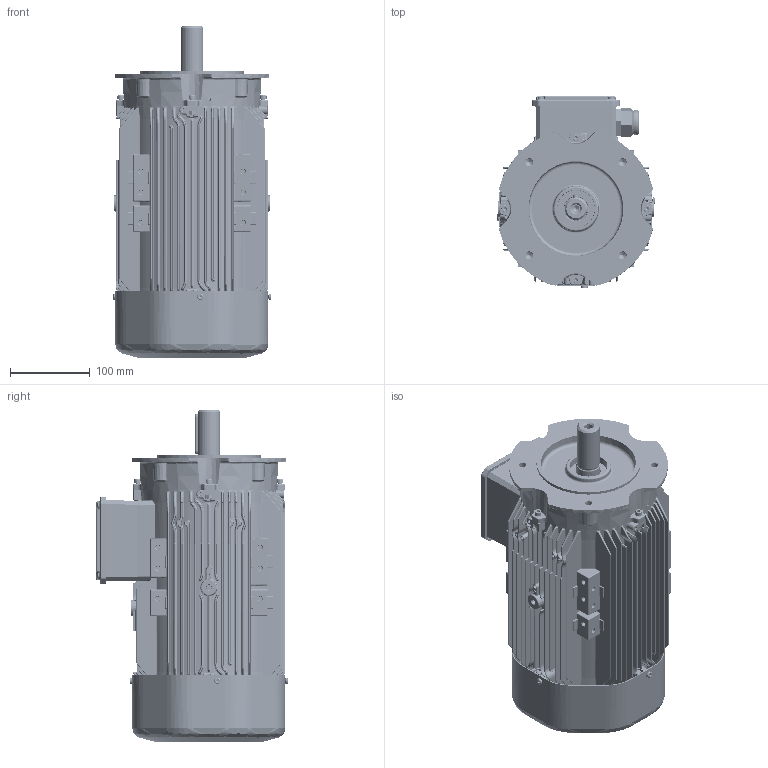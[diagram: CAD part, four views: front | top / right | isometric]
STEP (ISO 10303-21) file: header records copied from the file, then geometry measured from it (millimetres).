
FILE_DESCRIPTION(/* description */ (''),/* implementation_level */ '2;1');
FILE_NAME(/* name */ 'OUTLOOK VIEW QH100 FC B14 - BIGGER FT165 SPL.stp',/* time_stamp */ '2021-09-13T11:54:11+03:00',/* author */ (''),/* organization */ (''),/* preprocessor_version */ 'ST-DEVELOPER v16',/* originating_system */ 'SIEMENS PLM Software NX 11.0',/* authorisation */ '');
FILE_SCHEMA (('AUTOMOTIVE_DESIGN { 1 0 10303 214 3 1 1 1 }'));
Products named in the file (1): 26062CE45B9Cd4u9
Bounding box: 197.75 x 240.1 x 415.31 mm (x, y, z)
Volume: 5152246.9 mm3; surface area: 1962302.2 mm2
Topology: 72 solids, 72 shells, 11342 faces, 27673 edges, 16100 vertices
Faces by surface type: cylinder 3647, bspline 3440, plane 2666, torus 689, cone 516, sphere 366, extrusion 18
Full cylindrical faces by diameter (mm): 3.242 x4, 3.3 x4, 4 x9, 4.722 x3, 5 x20, 5.5 x4, 8 x8, 8.5 x13, 10 x1, 10.5 x1, 18.7 x1, 23.38 x2, 23.9 x1, 24.4 x1, 24.8 x1, 25 x5, 25.2 x1, 27.4 x1, 28 x1, 28.6 x1, 29.4 x1, 30 x3, 31 x1, 31.6 x1, 34 x2, 34.35 x8, 40 x1, 43.95 x4, 44.6 x4, 46.21 x8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
Entity records: 456222 total; most frequent: CARTESIAN_POINT 160305, ORIENTED_EDGE 52874, DIRECTION 49055, EDGE_CURVE 26437, AXIS2_PLACEMENT_3D 20013, VERTEX_POINT 15884, EDGE_LOOP 12379, ADVANCED_FACE 11322
